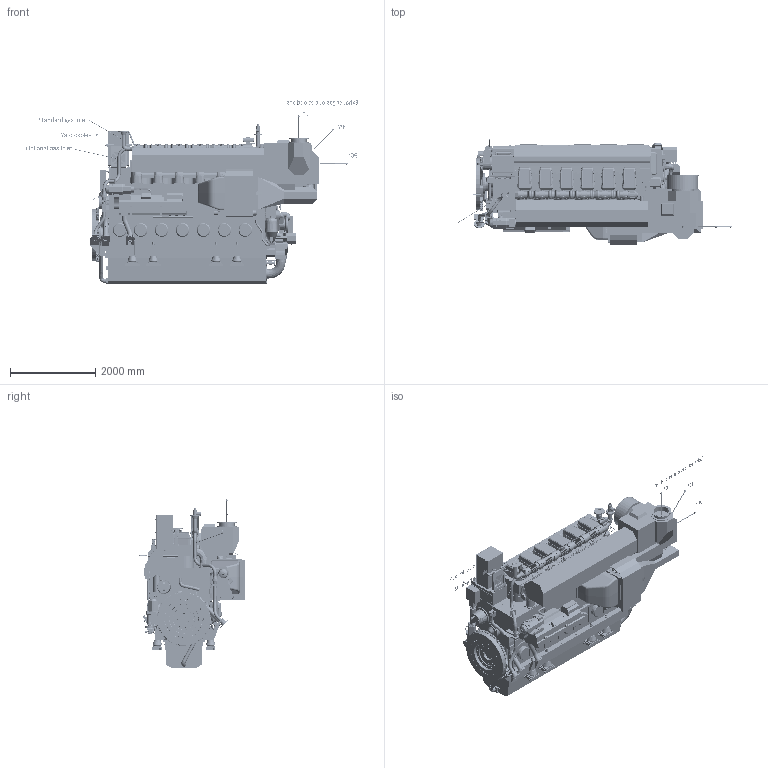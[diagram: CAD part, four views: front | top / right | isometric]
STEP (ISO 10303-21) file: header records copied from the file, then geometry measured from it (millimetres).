
FILE_DESCRIPTION(/* description */ (''),/* implementation_level */ '2;1');
FILE_NAME(/* name */ 'DAAF380502_B.stp',/* time_stamp */ '2021-12-10T12:12:49+02:00',/* author */ (''),/* organization */ (''),/* preprocessor_version */ 'ST-DEVELOPER v16.7',/* originating_system */ 'SIEMENS PLM Software NX 1915',/* authorisation */ '');
FILE_SCHEMA (('AUTOMOTIVE_DESIGN { 1 0 10303 214 3 1 1 1 }'));
Products named in the file (81): 001240134--_STEEL PLATE; 001240134-A_STEEL PLATE; PABA311381--_Governor driver; PAAF906213--_NITROGEN GAS PIPE; PAAF975683--_Gas feed pipe double wall; PAAF379162--_TURBOCHARGER; PAAF238216--_CRANKSHAFT; PABA135981--_Electrical equipment for lube oil module_ TCFE; PABA142427--_Control air system WG_BP TCF; PAAF776393--_AIR INLET PIPE; PAAF681232--_AIR INLET PIPE; PAAF354712--_CLEANING DEVICE; PABA086611--_Covers for charge air pipe A145 FE; PAAF683775--_AIR INLET BOX; PABA065492--_Charge air system; PAAF407516--_INSULATING BOX; PABA147579--_Turbocharger Bracket A145_ free end; PAAF078621--_LT-WATER PIPES; PAAF078619--_LT-WATER PIPES; PAAF243744--_LUBE OIL MODULE; PAAF247471--_OIL PIPE; PAAF906214--_ELECTRICAL EQUIPMENT; PAAF671497--_AIR VENT PIPE; PAAF271372--_MOTOR; PAAF909498--_LOCAL CONTROL PANEL; PAAF909496--_ELECTRICAL EQUIPMENT; PAAF675626--_OIL MIST DETECTOR; PAAF270351--_EQUIPMENT; PABA089633--_Gas vent system connecting flange; PABA065520--_Counter flange for HT preheating_ connection 406; PAAF078708--_ACTUATOR; PAAF721110--_DRAIN PIPE; PAAF068492--_AIR VENT SYSTEM; PAAF920689--_AIR VENT SYSTEM; PAAF093819--_WATER CONNECTION; PAAF093585--_STARTING AIR PIPES; PAAF093447--_SEPARATOR CONNECTIONS; PAAF074442--_WET SUMP; PAAF087145--_OIL SUCTION PIPE; PAAF243686--_CENTRIFUGAL FILTER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
Assembly tree (118 placements, depth 4):
  DAAF380502_B-Outline drawing
    PABA321041--_Flex mounting_MODEL
      0031B006100-K_ROUND NUT_MODEL  x8
      PAAF635310--_DAAE049274 Vulkan DMR T90  x8
      PAAF809612-A_FIXING PLATE_MODEL  x8
        001240134-A_STEEL PLATE
      PAAE073392-A_INTERMEDIATE PLATE_MODEL  x8
        001240134--_STEEL PLATE
    PABA103407--_Production drawing
    PABA320172--_Turbo options
    PABA319996--_3D tags
    PABA320505--_W6L34DFC-TCF-WET
      PAAF063630--_ENGINE BLOCK
      PABA036848--_Cylinder heads multiducts cylinder liner
      PAAF291916--_INTERMEDIATE GEAR
      PAAF906204--_SHUT-DOWN MECHANISM
      PAAF063769--_COVERS
      PAAF895907--_COVERS
      PAAF895909--_COVERS
      PAAF906209--_CYLINDER HEAD COVER
      PAAF064319--_COVERS
      PAAF906211--_SIDE COVER
      PAAF074388--_END COVER
      PAAF243671--_PUMP COVER
      PAAF555086--_PUMP COVER
      PAAF555085--_PUMP COVER
      PAAF243623--_FUEL PIPES
      PAAF555902--_PILOT FUEL LINE
      PAAF078074--_TURNING DEVICE
      PAAF247479--_FRAME
      PAAF397145--_COVERS
      PAAF559689--_COVER
      PAAF078241--_COVER
      PAAF087122--_LEAK FUEL PIPES
      PAAF087114--_LEAK FUEL SYSTEM
      PAAF087082--_A_LEAK FUEL PIPES
      PAAF087111--_LEAK FUEL SYSTEM
      PABA065852--_Gas feed pipe from roof
      PAAF975946--_gas pipe between cylinders  x5
      PAAF975926--_main gas admission valve  x6
      PABA066964--_Double wall gas vent system
      PAAF247485--_LUBRICATING OIL PUMP
      PAAF087136--_LUBRICATING OIL PIPES
      PAAF243686--_CENTRIFUGAL FILTER
      PAAF087145--_OIL SUCTION PIPE
      PAAF074442--_WET SUMP
      PAAF093447--_SEPARATOR CONNECTIONS
      PAAF093585--_STARTING AIR PIPES
      PAAF093819--_WATER CONNECTION
      PAAF920689--_AIR VENT SYSTEM
      PAAF068492--_AIR VENT SYSTEM
      PAAF721110--_DRAIN PIPE
      PAAF078708--_ACTUATOR  x2
      PABA065520--_Counter flange for HT preheating_ connection 406
      PABA089633--_Gas vent system connecting flange
      PAAF270351--_EQUIPMENT
      PAAF675626--_OIL MIST DETECTOR
      PAAF909496--_ELECTRICAL EQUIPMENT
      PAAF909498--_LOCAL CONTROL PANEL
      PAAF271372--_MOTOR
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Bounding box: 7773.27 x 2468.91 x 4310.62 mm (x, y, z)
Volume: 14052817833.2 mm3; surface area: 204597119.5 mm2
Topology: 411 solids, 425 shells, 18112 faces, 45370 edges, 29241 vertices
Faces by surface type: plane 9077, cylinder 5016, bspline 1607, extrusion 893, cone 788, torus 672, sphere 56, revolution 3
Full cylindrical faces by diameter (mm): 1 x6, 3 x3, 6 x7, 6.2 x64, 6.4 x4, 7.077 x1, 8 x40, 8.5 x2, 9 x20, 9.7 x1, 10 x8, 11 x3, 11.908 x1, 12 x101, 12.3 x1, 13 x2, 13.2 x4, 13.5 x4, 14 x32, 14.5 x2, 15 x11, 15.5 x32, 15.6 x4, 15.7 x4, 16 x17, 16.2 x3, 16.376 x1, 16.7 x1, 16.8 x1, 17 x9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
Entity records: 680286 total; most frequent: CARTESIAN_POINT 287806, ORIENTED_EDGE 80006, DIRECTION 72754, EDGE_CURVE 40003, VERTEX_POINT 26740, AXIS2_PLACEMENT_3D 24780, VECTOR 23191, LINE 22298
